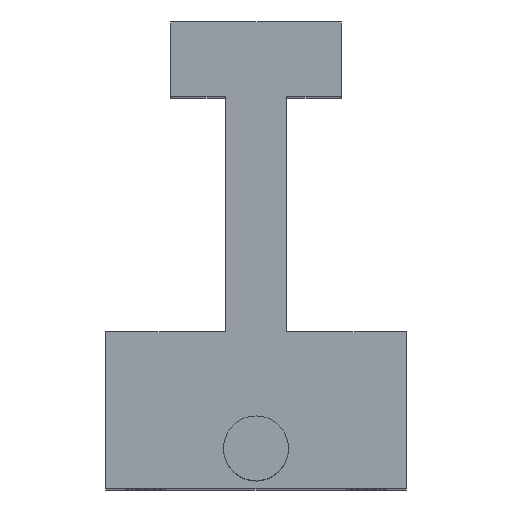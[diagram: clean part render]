
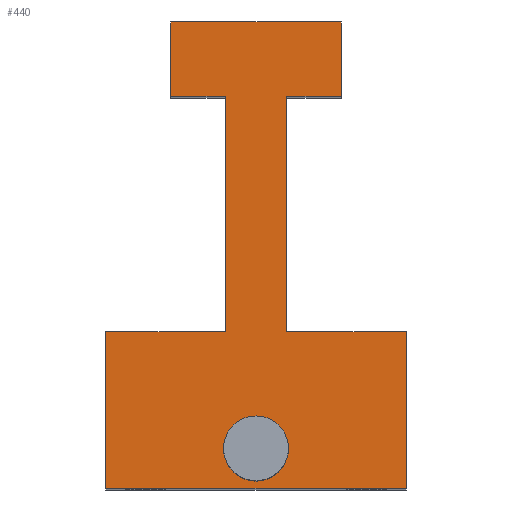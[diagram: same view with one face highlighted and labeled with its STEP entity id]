
A CAD part, top view. The second image highlights one B-rep face of the part: STEP entity #440.
In plain terms, the highlighted planar face has unit normal (0, 0, 1).
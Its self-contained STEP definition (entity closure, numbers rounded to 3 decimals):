
#20 = CARTESIAN_POINT ( 'NONE',  ( -1.95, -4.85, 64. ) ) ;
#49 = VECTOR ( 'NONE', #431, 1000. ) ;
#61 = CARTESIAN_POINT ( 'NONE',  ( -5.4, 14.75, 64. ) ) ;
#65 = EDGE_LOOP ( 'NONE', ( #609, #1672, #492, #1619, #142, #1340, #971, #1433, #1549, #966, #133, #414 ) ) ;
#85 = VERTEX_POINT ( 'NONE', #1233 ) ;
#107 = EDGE_CURVE ( 'NONE', #297, #361, #1205, .T. ) ;
#133 = ORIENTED_EDGE ( 'NONE', *, *, #832, .T. ) ;
#142 = ORIENTED_EDGE ( 'NONE', *, *, #107, .T. ) ;
#172 = VECTOR ( 'NONE', #1325, 1000. ) ;
#185 = VECTOR ( 'NONE', #596, 1000. ) ;
#203 = LINE ( 'NONE', #478, #1268 ) ;
#209 = ORIENTED_EDGE ( 'NONE', *, *, #1219, .F. ) ;
#273 = DIRECTION ( 'NONE',  ( -1., 0., 0. ) ) ;
#280 = VERTEX_POINT ( 'NONE', #1889 ) ;
#297 = VERTEX_POINT ( 'NONE', #1105 ) ;
#306 = VERTEX_POINT ( 'NONE', #329 ) ;
#326 = LINE ( 'NONE', #20, #1531 ) ;
#329 = CARTESIAN_POINT ( 'NONE',  ( -1.95, 10.05, 64. ) ) ;
#336 = DIRECTION ( 'NONE',  ( -1., 0., 0. ) ) ;
#346 = EDGE_CURVE ( 'NONE', #1651, #1498, #1469, .T. ) ;
#361 = VERTEX_POINT ( 'NONE', #1301 ) ;
#369 = EDGE_CURVE ( 'NONE', #1832, #306, #1279, .T. ) ;
#393 = CIRCLE ( 'NONE', #548, 2.05 ) ;
#414 = ORIENTED_EDGE ( 'NONE', *, *, #346, .T. ) ;
#416 = VERTEX_POINT ( 'NONE', #982 ) ;
#431 = DIRECTION ( 'NONE',  ( 0., 1., 0. ) ) ;
#440 = ADVANCED_FACE ( 'NONE', ( #807, #1180 ), #817, .F. ) ;
#478 = CARTESIAN_POINT ( 'NONE',  ( -5.4, 10.05, 64. ) ) ;
#492 = ORIENTED_EDGE ( 'NONE', *, *, #1945, .T. ) ;
#511 = DIRECTION ( 'NONE',  ( -1., 0., 0. ) ) ;
#519 = DIRECTION ( 'NONE',  ( 0., 0., 1. ) ) ;
#525 = EDGE_CURVE ( 'NONE', #85, #280, #588, .T. ) ;
#548 = AXIS2_PLACEMENT_3D ( 'NONE', #2013, #1844, #273 ) ;
#571 = VERTEX_POINT ( 'NONE', #1178 ) ;
#575 = CARTESIAN_POINT ( 'NONE',  ( 9.5, -14.75, 64. ) ) ;
#579 = VECTOR ( 'NONE', #718, 1000. ) ;
#588 = LINE ( 'NONE', #1158, #172 ) ;
#596 = DIRECTION ( 'NONE',  ( 1., 0., 0. ) ) ;
#609 = ORIENTED_EDGE ( 'NONE', *, *, #1334, .T. ) ;
#612 = VECTOR ( 'NONE', #1150, 1000. ) ;
#695 = AXIS2_PLACEMENT_3D ( 'NONE', #993, #1137, #511 ) ;
#718 = DIRECTION ( 'NONE',  ( 0., 1., 0. ) ) ;
#735 = VERTEX_POINT ( 'NONE', #1708 ) ;
#751 = CARTESIAN_POINT ( 'NONE',  ( 9.5, -4.85, 64. ) ) ;
#807 = FACE_BOUND ( 'NONE', #1587, .T. ) ;
#817 = PLANE ( 'NONE',  #695 ) ;
#818 = DIRECTION ( 'NONE',  ( -1., 0., 0. ) ) ;
#825 = LINE ( 'NONE', #1020, #1486 ) ;
#832 = EDGE_CURVE ( 'NONE', #280, #1651, #1904, .T. ) ;
#838 = CARTESIAN_POINT ( 'NONE',  ( -5.4, 14.75, 64. ) ) ;
#873 = EDGE_CURVE ( 'NONE', #735, #1864, #1081, .T. ) ;
#891 = CARTESIAN_POINT ( 'NONE',  ( -9.5, -14.75, 64. ) ) ;
#897 = VECTOR ( 'NONE', #904, 1000. ) ;
#904 = DIRECTION ( 'NONE',  ( -1., 0., 0. ) ) ;
#934 = CARTESIAN_POINT ( 'NONE',  ( 9.5, -4.85, 64. ) ) ;
#966 = ORIENTED_EDGE ( 'NONE', *, *, #525, .T. ) ;
#971 = ORIENTED_EDGE ( 'NONE', *, *, #1727, .T. ) ;
#982 = CARTESIAN_POINT ( 'NONE',  ( 9.5, -14.75, 64. ) ) ;
#993 = CARTESIAN_POINT ( 'NONE',  ( 0., 0., 64. ) ) ;
#1020 = CARTESIAN_POINT ( 'NONE',  ( 1.95, -4.85, 64. ) ) ;
#1070 = ORIENTED_EDGE ( 'NONE', *, *, #873, .F. ) ;
#1081 = CIRCLE ( 'NONE', #1567, 2.05 ) ;
#1105 = CARTESIAN_POINT ( 'NONE',  ( -9.5, -4.85, 64. ) ) ;
#1123 = CARTESIAN_POINT ( 'NONE',  ( 5.4, 14.75, 64. ) ) ;
#1130 = DIRECTION ( 'NONE',  ( 0., -1., 0. ) ) ;
#1137 = DIRECTION ( 'NONE',  ( 0., 0., -1. ) ) ;
#1140 = VERTEX_POINT ( 'NONE', #1983 ) ;
#1141 = LINE ( 'NONE', #1356, #49 ) ;
#1150 = DIRECTION ( 'NONE',  ( 1., 0., 0. ) ) ;
#1158 = CARTESIAN_POINT ( 'NONE',  ( 5.4, 10.05, 64. ) ) ;
#1177 = DIRECTION ( 'NONE',  ( -1., 0., 0. ) ) ;
#1178 = CARTESIAN_POINT ( 'NONE',  ( 1.95, -4.85, 64. ) ) ;
#1180 = FACE_OUTER_BOUND ( 'NONE', #65, .T. ) ;
#1184 = EDGE_CURVE ( 'NONE', #571, #85, #1141, .T. ) ;
#1205 = LINE ( 'NONE', #891, #1764 ) ;
#1219 = EDGE_CURVE ( 'NONE', #1864, #735, #393, .T. ) ;
#1233 = CARTESIAN_POINT ( 'NONE',  ( 1.95, 10.05, 64. ) ) ;
#1244 = LINE ( 'NONE', #751, #579 ) ;
#1268 = VECTOR ( 'NONE', #1130, 1000. ) ;
#1279 = LINE ( 'NONE', #1610, #612 ) ;
#1301 = CARTESIAN_POINT ( 'NONE',  ( -9.5, -14.75, 64. ) ) ;
#1325 = DIRECTION ( 'NONE',  ( 1., 0., 0. ) ) ;
#1334 = EDGE_CURVE ( 'NONE', #1498, #1832, #203, .T. ) ;
#1340 = ORIENTED_EDGE ( 'NONE', *, *, #1717, .T. ) ;
#1356 = CARTESIAN_POINT ( 'NONE',  ( 1.95, 10.05, 64. ) ) ;
#1433 = ORIENTED_EDGE ( 'NONE', *, *, #1584, .T. ) ;
#1440 = LINE ( 'NONE', #575, #185 ) ;
#1459 = CARTESIAN_POINT ( 'NONE',  ( 0., -12.25, 64. ) ) ;
#1469 = LINE ( 'NONE', #61, #1883 ) ;
#1486 = VECTOR ( 'NONE', #1177, 1000. ) ;
#1490 = VECTOR ( 'NONE', #1897, 1000. ) ;
#1498 = VERTEX_POINT ( 'NONE', #838 ) ;
#1514 = CARTESIAN_POINT ( 'NONE',  ( -9.5, -4.85, 64. ) ) ;
#1531 = VECTOR ( 'NONE', #1701, 1000. ) ;
#1549 = ORIENTED_EDGE ( 'NONE', *, *, #1184, .T. ) ;
#1559 = CARTESIAN_POINT ( 'NONE',  ( -5.4, 10.05, 64. ) ) ;
#1566 = CARTESIAN_POINT ( 'NONE',  ( 2.05, -12.25, 64. ) ) ;
#1567 = AXIS2_PLACEMENT_3D ( 'NONE', #1459, #519, #818 ) ;
#1584 = EDGE_CURVE ( 'NONE', #1835, #571, #825, .T. ) ;
#1587 = EDGE_LOOP ( 'NONE', ( #1070, #209 ) ) ;
#1610 = CARTESIAN_POINT ( 'NONE',  ( -1.95, 10.05, 64. ) ) ;
#1619 = ORIENTED_EDGE ( 'NONE', *, *, #1817, .T. ) ;
#1651 = VERTEX_POINT ( 'NONE', #1803 ) ;
#1672 = ORIENTED_EDGE ( 'NONE', *, *, #369, .T. ) ;
#1701 = DIRECTION ( 'NONE',  ( 0., -1., 0. ) ) ;
#1708 = CARTESIAN_POINT ( 'NONE',  ( -2.05, -12.25, 64. ) ) ;
#1717 = EDGE_CURVE ( 'NONE', #361, #416, #1440, .T. ) ;
#1727 = EDGE_CURVE ( 'NONE', #416, #1835, #1244, .T. ) ;
#1731 = LINE ( 'NONE', #1514, #897 ) ;
#1764 = VECTOR ( 'NONE', #2015, 1000. ) ;
#1803 = CARTESIAN_POINT ( 'NONE',  ( 5.4, 14.75, 64. ) ) ;
#1817 = EDGE_CURVE ( 'NONE', #1140, #297, #1731, .T. ) ;
#1832 = VERTEX_POINT ( 'NONE', #1559 ) ;
#1835 = VERTEX_POINT ( 'NONE', #934 ) ;
#1844 = DIRECTION ( 'NONE',  ( 0., 0., 1. ) ) ;
#1864 = VERTEX_POINT ( 'NONE', #1566 ) ;
#1883 = VECTOR ( 'NONE', #336, 1000. ) ;
#1889 = CARTESIAN_POINT ( 'NONE',  ( 5.4, 10.05, 64. ) ) ;
#1897 = DIRECTION ( 'NONE',  ( 0., 1., 0. ) ) ;
#1904 = LINE ( 'NONE', #1123, #1490 ) ;
#1945 = EDGE_CURVE ( 'NONE', #306, #1140, #326, .T. ) ;
#1983 = CARTESIAN_POINT ( 'NONE',  ( -1.95, -4.85, 64. ) ) ;
#2013 = CARTESIAN_POINT ( 'NONE',  ( 0., -12.25, 64. ) ) ;
#2015 = DIRECTION ( 'NONE',  ( 0., -1., 0. ) ) ;
